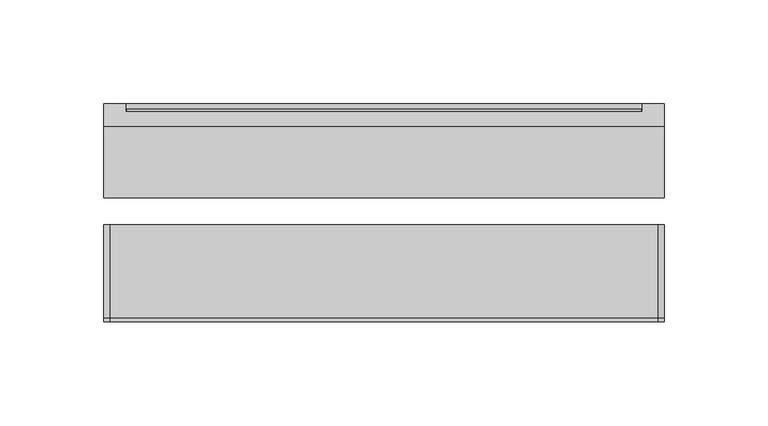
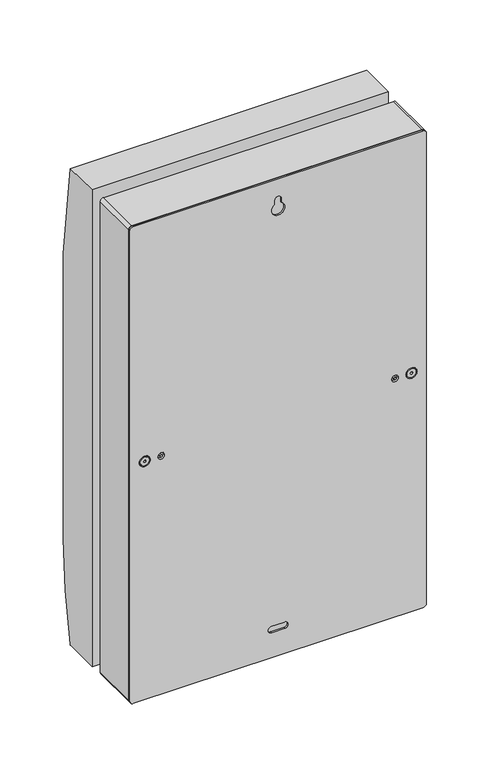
"""IFC4 building model written with IfcOpenShell, lengths in millimetres: proxy geometry, ЩРН-П-36_45 : ЩРН-П-36_ЭКО бук, венге."""

from ifc_helpers import new_model, si_unit, point, frame, frame_2d, origin, place, context, project, spatial, polyline, circle_curve, trimmed, segment, composite_curve, outline, extrude, source, transform, mapped, element, save
from ifc_brep_helpers import plane_surface, cylinder_surface, advanced_brep


def electrical_equipment_d2c2ee65(model_context):
    return source(origin(), model_context, "Body", "SolidModel", [
        extrude(outline(composite_curve([segment(polyline([(92.872116, -187.5), (89.8760178, -187.5), (89.8760178, -72.520918), (92.8760178, -72.520918)]), True, "CONTINUOUS"), segment(trimmed(circle_curve(frame_2d((-37.3430912, -130.00604)), 142.3430912), [point((92.8760178, -72.520918))], [point((92.872116, -187.5))], False, "CARTESIAN"), True, "CONTINUOUS")], self_intersect=False)), frame((-124.0, 0.0, 0.0), z_axis=(1.0, 0.0, 0.0), x_axis=(0.0, 1.0, 0.0)), (0.0, 0.0, 1.0), 248.0),
        extrude(outline(composite_curve([segment(polyline([(90.372116, 72.5), (87.3760178, 72.5), (87.3760178, 187.479082), (90.3760178, 187.479082)]), True, "CONTINUOUS"), segment(trimmed(circle_curve(frame_2d((-39.8430912, 129.99396)), 142.3430912), [point((90.3760178, 187.479082))], [point((90.372116, 72.5))], False, "CARTESIAN"), True, "CONTINUOUS")], self_intersect=False)), frame((-124.0, 0.0, 0.0), z_axis=(1.0, 0.0, 0.0), x_axis=(0.0, 1.0, 0.0)), (0.0, 0.0, 1.0), 248.0),
        extrude(outline(composite_curve([segment(polyline([(92.872116, -57.5), (89.8760178, -57.5), (89.8760178, 57.479082), (92.8760178, 57.479082)]), True, "CONTINUOUS"), segment(trimmed(circle_curve(frame_2d((-37.3430912, -0.00604)), 142.3430912), [point((92.8760178, 57.479082))], [point((92.872116, -57.5))], False, "CARTESIAN"), True, "CONTINUOUS")], self_intersect=False)), frame((-124.0, 0.0, 0.0), z_axis=(1.0, 0.0, 0.0), x_axis=(0.0, 1.0, 0.0)), (0.0, 0.0, 1.0), 248.0),
        advanced_brep(
        [(134.9788368, 59.8417379, 229.890478), (134.9788368, 59.8417379, -229.109522), (134.9788368, 93.4566098, -229.109522), (134.9788368, 94.3995351, -228.4379147), (134.9788368, 105.0, -133.3998835), (134.9788368, 105.0, 141.2174231), (134.9788368, 93.8728279, 229.890478), (-134.9788368, 59.8417379, 229.890478), (-134.9788368, 93.8728279, 229.890478), (-134.9788368, 105.0, 141.2174231), (-134.9788368, 105.0, -133.3998835), (-134.9788368, 94.3995351, -228.4379147), (-134.9788368, 93.4566098, -229.109522), (-134.9788368, 59.8417379, -229.109522), (-124.4788368, 59.8417379, 187.5), (124.4788368, 59.8417379, 187.5), (124.4788368, 59.8417379, 72.5), (-124.4788368, 59.8417379, 72.5), (-124.4788368, 59.8417379, -73.2140618), (124.4788368, 59.8417379, -73.2140618), (124.4788368, 59.8417379, -188.2140618), (-124.4788368, 59.8417379, -188.2140618), (-124.4788368, 59.8417379, 57.5), (124.4788368, 59.8417379, 57.5), (124.4788368, 59.8417379, -57.5), (-124.4788368, 59.8417379, -57.5), (124.4788368, 101.11014, 187.5), (-124.4788368, 101.11014, 187.5), (-124.4788368, 105.0, 72.5), (-124.4788368, 105.0, 141.2174231), (124.4788368, 105.0, 72.5), (124.4788368, 105.0, 141.2174231), (-124.4788368, 105.0, -133.3998835), (-124.4788368, 101.5028819, -188.2140618), (124.4788368, 101.5028819, -188.2140618), (124.4788368, 105.0, -133.3998835), (124.4788368, 105.0, -73.2140618), (-124.4788368, 105.0, -73.2140618), (124.4788368, 105.0, 57.5), (-124.4788368, 105.0, 57.5), (-124.4788368, 105.0, -57.5), (124.4788368, 105.0, -57.5)],
        [
            (0, 1),
            (1, 2),
            (2, 3, circle_curve(frame((134.9788368, 93.4566098, -228.1117926), z_axis=(1.0, 0.0, 0.0), x_axis=(0.0, 0.0, -1.0)), 0.9977294)),
            (3, 4, circle_curve(frame((134.9788368, -326.3300107, -133.3998835), z_axis=(1.0, 0.0, 0.0), x_axis=(0.0, 0.0, -1.0)), 431.3300107)),
            (4, 5),
            (5, 6, circle_curve(frame((134.9788368, -419.3771015, 120.4504385), z_axis=(1.0, 0.0, 0.0), x_axis=(0.0, 0.0, -1.0)), 524.7881594)),
            (6, 0),
            (7, 8),
            (8, 9, circle_curve(frame((-134.9788368, -419.3771015, 120.4504385), z_axis=(-1.0, 0.0, 0.0), x_axis=(0.0, 0.0, -1.0)), 524.7881594)),
            (9, 10),
            (10, 11, circle_curve(frame((-134.9788368, -326.3300107, -133.3998835), z_axis=(-1.0, 0.0, 0.0), x_axis=(0.0, 0.0, -1.0)), 431.3300107)),
            (11, 12, circle_curve(frame((-134.9788368, 93.4566098, -228.1117926), z_axis=(-1.0, 0.0, 0.0), x_axis=(0.0, 0.0, -1.0)), 0.9977294)),
            (12, 13),
            (13, 7),
            (0, 7),
            (13, 1),
            (14, 15),
            (15, 16),
            (16, 17),
            (17, 14),
            (18, 19),
            (19, 20),
            (20, 21),
            (21, 18),
            (22, 23),
            (23, 24),
            (24, 25),
            (25, 22),
            (12, 2),
            (6, 8),
            (26, 15),
            (14, 27),
            (27, 26),
            (17, 28),
            (28, 29),
            (29, 27, circle_curve(frame((-124.4788368, -419.3771015, 120.4504385), z_axis=(1.0, 0.0, 0.0), x_axis=(0.0, 0.0, -1.0)), 524.7881594)),
            (16, 30),
            (30, 28),
            (26, 31, circle_curve(frame((124.4788368, -419.3771015, 120.4504385), z_axis=(-1.0, 0.0, 0.0), x_axis=(0.0, 0.0, -1.0)), 524.7881594)),
            (31, 30),
            (11, 3),
            (10, 32),
            (32, 33, circle_curve(frame((-124.4788368, -326.3300107, -133.3998835), z_axis=(-1.0, 0.0, 0.0), x_axis=(0.0, 0.0, -1.0)), 431.3300107)),
            (33, 34),
            (34, 35, circle_curve(frame((124.4788368, -326.3300107, -133.3998835), z_axis=(1.0, 0.0, 0.0), x_axis=(0.0, 0.0, -1.0)), 431.3300107)),
            (35, 4),
            (35, 36),
            (36, 37),
            (37, 32),
            (9, 29),
            (31, 5),
            (38, 39),
            (39, 40),
            (40, 41),
            (41, 38),
            (36, 19),
            (18, 37),
            (21, 33),
            (20, 34),
            (38, 23),
            (22, 39),
            (25, 40),
            (24, 41),
        ],
        [
            plane_surface(frame((134.9788368, 59.8417379, -229.109522), z_axis=(1.0, 0.0, 0.0), x_axis=(0.0, 0.0, -1.0))),
            plane_surface(frame((-134.9788368, 59.8417379, -229.109522), z_axis=(-1.0, 0.0, 0.0), x_axis=(0.0, 0.0, 1.0))),
            plane_surface(frame((134.9788368, 59.8417379, 229.890478), z_axis=(0.0, -1.0, 0.0), x_axis=(-1.0, 0.0, 0.0))),
            plane_surface(frame((134.9788368, 59.8417379, -229.109522), z_axis=(0.0, 0.0, -1.0), x_axis=(-1.0, 0.0, 0.0))),
            plane_surface(frame((134.9788368, 93.8728279, 229.890478), z_axis=(0.0, 0.0, 1.0), x_axis=(-1.0, 0.0, 0.0))),
            plane_surface(frame((124.4788368, 59.8417379, 187.5), z_axis=(0.0, 0.0, -1.0), x_axis=(0.0, 1.0, 0.0))),
            plane_surface(frame((-124.4788368, 59.8417379, 187.5), z_axis=(1.0, 0.0, 0.0), x_axis=(0.0, 1.0, 0.0))),
            plane_surface(frame((-124.4788368, 59.8417379, 72.5), z_axis=(0.0, 0.0, 1.0), x_axis=(0.0, 1.0, 0.0))),
            plane_surface(frame((124.4788368, 59.8417379, 72.5), z_axis=(-1.0, 0.0, 0.0), x_axis=(0.0, 1.0, 0.0))),
            cylinder_surface(frame((-134.9788368, 93.4566098, -228.1117926), z_axis=(1.0, 0.0, 0.0), x_axis=(0.0, 0.0, -1.0)), 0.9977294),
            cylinder_surface(frame((-134.9788368, -326.3300107, -133.3998835), z_axis=(1.0, 0.0, 0.0), x_axis=(0.0, 0.0, -1.0)), 431.3300107),
            plane_surface(frame((134.9788368, 105.0, -133.3998835), z_axis=(0.0, 1.0, 0.0), x_axis=(-1.0, 0.0, 0.0))),
            cylinder_surface(frame((-134.9788368, -419.3771015, 120.4504385), z_axis=(1.0, 0.0, 0.0), x_axis=(0.0, 0.0, -1.0)), 524.7881594),
            plane_surface(frame((124.4788368, 59.8417379, -73.2140618), z_axis=(0.0, 0.0, -1.0), x_axis=(0.0, 1.0, 0.0))),
            plane_surface(frame((-124.4788368, 59.8417379, -73.2140618), z_axis=(1.0, 0.0, 0.0), x_axis=(0.0, 1.0, 0.0))),
            plane_surface(frame((-124.4788368, 59.8417379, -188.2140618), z_axis=(0.0, 0.0, 1.0), x_axis=(0.0, 1.0, 0.0))),
            plane_surface(frame((124.4788368, 59.8417379, -188.2140618), z_axis=(-1.0, 0.0, 0.0), x_axis=(0.0, 1.0, 0.0))),
            plane_surface(frame((124.4788368, 59.8417379, 57.5), z_axis=(0.0, 0.0, -1.0), x_axis=(0.0, 1.0, 0.0))),
            plane_surface(frame((-124.4788368, 59.8417379, 57.5), z_axis=(1.0, 0.0, 0.0), x_axis=(0.0, 1.0, 0.0))),
            plane_surface(frame((-124.4788368, 59.8417379, -57.5), z_axis=(0.0, 0.0, 1.0), x_axis=(0.0, 1.0, 0.0))),
            plane_surface(frame((124.4788368, 59.8417379, -57.5), z_axis=(-1.0, 0.0, 0.0), x_axis=(0.0, 1.0, 0.0))),
        ],
        [
            (0, [[1, 2, 3, 4, 5, 6, 7]]),
            (1, [[8, 9, 10, 11, 12, 13, 14]]),
            (2, [[-1, 15, -14, 16], [17, 18, 19, 20], [21, 22, 23, 24], [25, 26, 27, 28]]),
            (3, [[-2, -16, -13, 29]]),
            (4, [[-7, 30, -8, -15]]),
            (5, [[31, -17, 32, 33]]),
            (6, [[-32, -20, 34, 35, 36]]),
            (7, [[-34, -19, 37, 38]]),
            (8, [[-31, 39, 40, -37, -18]]),
            (9, [[-3, -29, -12, 41]]),
            (10, [[-4, -41, -11, 42, 43, 44, 45, 46]]),
            (11, [[-5, -46, 47, 48, 49, -42, -10, 50, -35, -38, -40, 51], [52, 53, 54, 55]]),
            (12, [[-6, -51, -39, -33, -36, -50, -9, -30]]),
            (13, [[56, -21, 57, -48]]),
            (14, [[-57, -24, 58, -43, -49]]),
            (15, [[-58, -23, 59, -44]]),
            (16, [[-56, -47, -45, -59, -22]]),
            (17, [[60, -25, 61, -52]]),
            (18, [[-61, -28, 62, -53]]),
            (19, [[-62, -27, 63, -54]]),
            (20, [[-60, -55, -63, -26]]),
        ],
    ),
        extrude(outline(composite_curve([segment(polyline([(229.5, 132.0143257), (229.5, -131.9856743)]), True, "CONTINUOUS"), segment(trimmed(circle_curve(frame_2d((226.5, -131.9856743)), 3.0), [point((229.5, -131.9856743))], [point((226.5, -134.9856743))], False, "CARTESIAN"), True, "CONTINUOUS"), segment(polyline([(226.5, -134.9856743), (-226.5, -134.9856743)]), True, "CONTINUOUS"), segment(trimmed(circle_curve(frame_2d((-226.5, -131.9856743)), 3.0), [point((-226.5, -134.9856743))], [point((-229.5, -131.9856743))], False, "CARTESIAN"), True, "CONTINUOUS"), segment(polyline([(-229.5, -131.9856743), (-229.5, 132.0143257)]), True, "CONTINUOUS"), segment(trimmed(circle_curve(frame_2d((-226.5, 132.0143257)), 3.0), [point((-229.5, 132.0143257))], [point((-226.5, 135.0143257))], False, "CARTESIAN"), True, "CONTINUOUS"), segment(polyline([(-226.5, 135.0143257), (226.5, 135.0143257)]), True, "CONTINUOUS"), segment(trimmed(circle_curve(frame_2d((226.5, 132.0143257)), 3.0), [point((226.5, 135.0143257))], [point((229.5, 132.0143257))], False, "CARTESIAN"), True, "CONTINUOUS")], self_intersect=False), holes=[polyline([(187.0, 126.4911629), (-186.9981471, 126.4911629), (-186.9981471, -126.4911629), (187.0, -126.4911629), (187.0, 126.4911629)])]), frame((0.0, 2.0, 0.0), z_axis=(0.0, 1.0, 0.0), x_axis=(0.0, 0.0, 1.0)), (0.0, 0.0, 1.0), 44.7352789),
        extrude(outline(composite_curve([segment(polyline([(229.4759122, 132.0015594), (229.4759122, -131.9729081)]), True, "CONTINUOUS"), segment(trimmed(circle_curve(frame_2d((226.4707093, -131.9729081)), 3.0052029), [point((229.4759122, -131.9729081))], [point((226.4707093, -134.978111))], False, "CARTESIAN"), True, "CONTINUOUS"), segment(polyline([(226.4707093, -134.978111), (-226.4918727, -134.978111)]), True, "CONTINUOUS"), segment(trimmed(circle_curve(frame_2d((-226.4601279, -131.9834898)), 2.9947895), [point((-226.4918727, -134.978111))], [point((-229.4547491, -131.9517444))], False, "CARTESIAN"), True, "CONTINUOUS"), segment(polyline([(-229.4547491, -131.9517444), (-229.4970759, 132.0015591)]), True, "CONTINUOUS"), segment(trimmed(circle_curve(frame_2d((-226.4812913, 131.9909777)), 3.0158032), [point((-229.4970759, 132.0015591))], [point((-226.4707093, 135.0067623))], False, "CARTESIAN"), True, "CONTINUOUS"), segment(polyline([(-226.4707093, 135.0067623), (226.4707093, 135.0067623)]), True, "CONTINUOUS"), segment(trimmed(circle_curve(frame_2d((226.4707093, 132.0015594)), 3.0052029), [point((226.4707093, 135.0067623))], [point((229.4759122, 132.0015594))], False, "CARTESIAN"), True, "CONTINUOUS")], self_intersect=False), holes=[composite_curve([segment(trimmed(circle_curve(frame_2d((200.6388462, 0.0286513)), 5.9783169), [point((205.8152276, 3.0195289))], [point((205.8171179, -2.9589524))], True, "CARTESIAN"), True, "CONTINUOUS"), segment(polyline([(205.8171179, -2.9589524), (209.6246396, -2.9908776)]), True, "CONTINUOUS"), segment(trimmed(circle_curve(frame_2d((209.6246396, 0.0143257)), 3.0052032), [point((209.6246396, -2.9908776))], [point((209.6246396, 3.0195289))], True, "CARTESIAN"), True, "CONTINUOUS"), segment(polyline([(209.6246396, 3.0195289), (205.8152276, 3.0195289)]), True, "CONTINUOUS")], self_intersect=False), composite_curve([segment(trimmed(circle_curve(frame_2d((0.031745, -121.4546966)), 5.0157261), [point((0.031745, -126.4704227))], [point((0.031745, -116.4389705))], True, "CARTESIAN"), True, "CONTINUOUS"), segment(trimmed(circle_curve(frame_2d((0.031745, -121.4546966)), 5.0157261), [point((0.031745, -116.4389705))], [point((0.031745, -126.4704227))], True, "CARTESIAN"), True, "CONTINUOUS")], self_intersect=False), composite_curve([segment(trimmed(circle_curve(frame_2d((0.031745, -106.4710075)), 2.9840395), [point((0.031745, -109.455047))], [point((0.031745, -103.4869679))], True, "CARTESIAN"), True, "CONTINUOUS"), segment(trimmed(circle_curve(frame_2d((0.031745, -106.4710075)), 2.9840395), [point((0.031745, -103.4869679))], [point((0.031745, -109.455047))], True, "CARTESIAN"), True, "CONTINUOUS")], self_intersect=False), composite_curve([segment(trimmed(circle_curve(frame_2d((0.0317443, 106.5419849)), 2.9840395), [point((0.0317443, 103.5579454))], [point((0.0317443, 109.5260245))], True, "CARTESIAN"), True, "CONTINUOUS"), segment(trimmed(circle_curve(frame_2d((0.0317443, 106.5419849)), 2.9840395), [point((0.0317443, 109.5260245))], [point((0.0317443, 103.5579454))], True, "CARTESIAN"), True, "CONTINUOUS")], self_intersect=False), composite_curve([segment(trimmed(circle_curve(frame_2d((0.0317448, 121.5256742)), 5.0157261), [point((0.0317448, 116.509948))], [point((0.0317448, 126.5414003))], True, "CARTESIAN"), True, "CONTINUOUS"), segment(trimmed(circle_curve(frame_2d((0.0317448, 121.5256742)), 5.0157261), [point((0.0317448, 126.5414003))], [point((0.0317448, 116.509948))], True, "CARTESIAN"), True, "CONTINUOUS")], self_intersect=False), composite_curve([segment(polyline([(-205.4131233, 6.0247433), (-205.4131233, -5.9960811)]), True, "CONTINUOUS"), segment(trimmed(circle_curve(frame_2d((-202.40792, -5.9960811)), 3.0052032), [point((-205.4131233, -5.9960811))], [point((-199.4027168, -5.9960811))], True, "CARTESIAN"), True, "CONTINUOUS"), segment(polyline([(-199.4027168, -5.9960811), (-199.4027168, 6.0247433)]), True, "CONTINUOUS"), segment(trimmed(circle_curve(frame_2d((-202.40792, 6.0247433)), 3.0052032), [point((-199.4027168, 6.0247433))], [point((-205.4131233, 6.0247433))], True, "CARTESIAN"), True, "CONTINUOUS")], self_intersect=False)]), frame((0.0, 0.0, 0.0), z_axis=(0.0, 1.0, 0.0), x_axis=(0.0, 0.0, 1.0)), (0.0, 0.0, 1.0), 2.0),
        extrude(outline(composite_curve([segment(trimmed(circle_curve(frame_2d((0.031745, -121.4546966)), 3.9998831), [point((0.031745, -125.4545797))], [point((0.031745, -117.4548135))], False, "CARTESIAN"), True, "CONTINUOUS"), segment(trimmed(circle_curve(frame_2d((0.031745, -121.4546966)), 3.9998831), [point((0.031745, -117.4548135))], [point((0.031745, -125.4545797))], False, "CARTESIAN"), True, "CONTINUOUS")], self_intersect=False), holes=[composite_curve([segment(trimmed(circle_curve(frame_2d((0.031745, -121.4546966)), 0.99468), [point((0.031745, -122.4493766))], [point((0.031745, -120.4600166))], True, "CARTESIAN"), True, "CONTINUOUS"), segment(trimmed(circle_curve(frame_2d((0.031745, -121.4546966)), 0.99468), [point((0.031745, -120.4600166))], [point((0.031745, -122.4493766))], True, "CARTESIAN"), True, "CONTINUOUS")], self_intersect=False)]), frame((0.0, 0.0, 0.0), z_axis=(0.0, 1.0, 0.0), x_axis=(0.0, 0.0, 1.0)), (0.0, 0.0, 1.0), 2.0),
        extrude(outline(composite_curve([segment(trimmed(circle_curve(frame_2d((0.031745, -106.4710075)), 0.99468), [point((0.031745, -107.4656875))], [point((0.031745, -105.4763274))], False, "CARTESIAN"), True, "CONTINUOUS"), segment(trimmed(circle_curve(frame_2d((0.031745, -106.4710075)), 0.99468), [point((0.031745, -105.4763274))], [point((0.031745, -107.4656875))], False, "CARTESIAN"), True, "CONTINUOUS")], self_intersect=False)), frame((0.0, 0.0, 0.0), z_axis=(0.0, 1.0, 0.0), x_axis=(0.0, 0.0, 1.0)), (0.0, 0.0, 1.0), 2.0),
        extrude(outline(composite_curve([segment(trimmed(circle_curve(frame_2d((0.0317443, 106.5419849)), 0.99468), [point((0.0317443, 105.5473049))], [point((0.0317443, 107.536665))], False, "CARTESIAN"), True, "CONTINUOUS"), segment(trimmed(circle_curve(frame_2d((0.0317443, 106.5419849)), 0.99468), [point((0.0317443, 107.536665))], [point((0.0317443, 105.5473049))], False, "CARTESIAN"), True, "CONTINUOUS")], self_intersect=False)), frame((0.0, 0.0, 0.0), z_axis=(0.0, 1.0, 0.0), x_axis=(0.0, 0.0, 1.0)), (0.0, 0.0, 1.0), 2.0),
        extrude(outline(composite_curve([segment(trimmed(circle_curve(frame_2d((0.0317448, 121.5256742)), 3.9998831), [point((0.0317448, 117.5257911))], [point((0.0317448, 125.5255573))], False, "CARTESIAN"), True, "CONTINUOUS"), segment(trimmed(circle_curve(frame_2d((0.0317448, 121.5256742)), 3.9998831), [point((0.0317448, 125.5255573))], [point((0.0317448, 117.5257911))], False, "CARTESIAN"), True, "CONTINUOUS")], self_intersect=False), holes=[composite_curve([segment(trimmed(circle_curve(frame_2d((0.0317448, 121.5256742)), 0.99468), [point((0.0317448, 120.5309941))], [point((0.0317448, 122.5203542))], True, "CARTESIAN"), True, "CONTINUOUS"), segment(trimmed(circle_curve(frame_2d((0.0317448, 121.5256742)), 0.99468), [point((0.0317448, 122.5203542))], [point((0.0317448, 120.5309941))], True, "CARTESIAN"), True, "CONTINUOUS")], self_intersect=False)]), frame((0.0, 0.0, 0.0), z_axis=(0.0, 1.0, 0.0), x_axis=(0.0, 0.0, 1.0)), (0.0, 0.0, 1.0), 2.0),
    ])


if __name__ == "__main__":
    model = new_model("IFC4")
    model_context = context("Model", 3, world=origin())
    ifc_project = project(units=[si_unit("LENGTHUNIT", "METRE", prefix="MILLI")], contexts=[model_context])
    site = spatial("IfcSite", under=ifc_project)
    building = spatial("IfcBuilding", under=site)
    placement = place(None, origin())
    electrical_equipment_shape = electrical_equipment_d2c2ee65(model_context)
    element("IfcBuildingElementProxy", 1, Name="ЩРН-П-36_45 : ЩРН-П-36_ЭКО бук, венге", ObjectType="ЩРН-П-36_45 : ЩРН-П-36_ЭКО бук, венге", at=placement, inside=building, context=model_context, shape_type="MappedRepresentation", body=[
        mapped(electrical_equipment_shape, transform((0.0, 0.0, 0.0), x_axis=(1.0, 0.0, 0.0), y_axis=(0.0, 1.0, 0.0), z_axis=(0.0, 0.0, 1.0))),
    ])
    save(model, "model.ifc")
